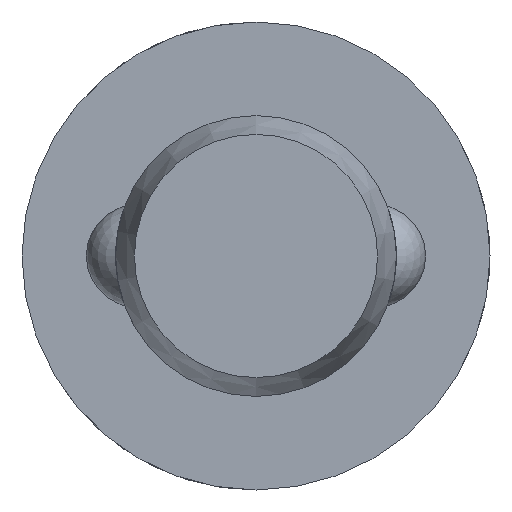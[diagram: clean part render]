
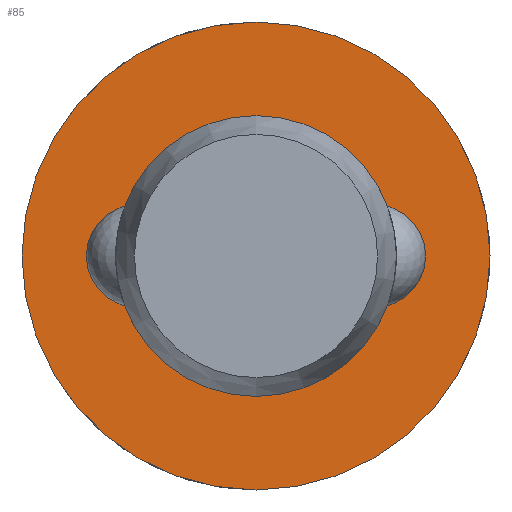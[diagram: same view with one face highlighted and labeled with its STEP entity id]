
A CAD part, left-side view. The second image highlights one B-rep face of the part: STEP entity #85.
In plain terms, the highlighted planar face has unit normal (-1, 0, 0).
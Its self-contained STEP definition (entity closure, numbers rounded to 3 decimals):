
#85 = ADVANCED_FACE( '', ( #130, #131 ), #132, .F. );
#130 = FACE_OUTER_BOUND( '', #201, .T. );
#131 = FACE_BOUND( '', #202, .T. );
#132 = PLANE( '', #203 );
#201 = EDGE_LOOP( '', ( #317 ) );
#202 = EDGE_LOOP( '', ( #318 ) );
#203 = AXIS2_PLACEMENT_3D( '', #319, #320, #321 );
#317 = ORIENTED_EDGE( '', *, *, #461, .F. );
#318 = ORIENTED_EDGE( '', *, *, #458, .T. );
#319 = CARTESIAN_POINT( '', ( 120.6, 6., 0. ) );
#320 = DIRECTION( '', ( 1., 0., 0. ) );
#321 = DIRECTION( '', ( 0., 0., -1. ) );
#458 = EDGE_CURVE( '', #532, #532, #533, .T. );
#461 = EDGE_CURVE( '', #538, #538, #539, .T. );
#532 = VERTEX_POINT( '', #742 );
#533 = CIRCLE( '', #743, 6. );
#538 = VERTEX_POINT( '', #858 );
#539 = CIRCLE( '', #859, 10. );
#742 = CARTESIAN_POINT( '', ( 120.6, 0., -6. ) );
#743 = AXIS2_PLACEMENT_3D( '', #936, #937, #938 );
#858 = CARTESIAN_POINT( '', ( 120.6, 0., -10. ) );
#859 = AXIS2_PLACEMENT_3D( '', #939, #940, #941 );
#936 = CARTESIAN_POINT( '', ( 120.6, 0., 0. ) );
#937 = DIRECTION( '', ( 1., 0., 0. ) );
#938 = DIRECTION( '', ( 0., 0., -1. ) );
#939 = CARTESIAN_POINT( '', ( 120.6, 0., 0. ) );
#940 = DIRECTION( '', ( 1., 0., 0. ) );
#941 = DIRECTION( '', ( 0., 0., -1. ) );
